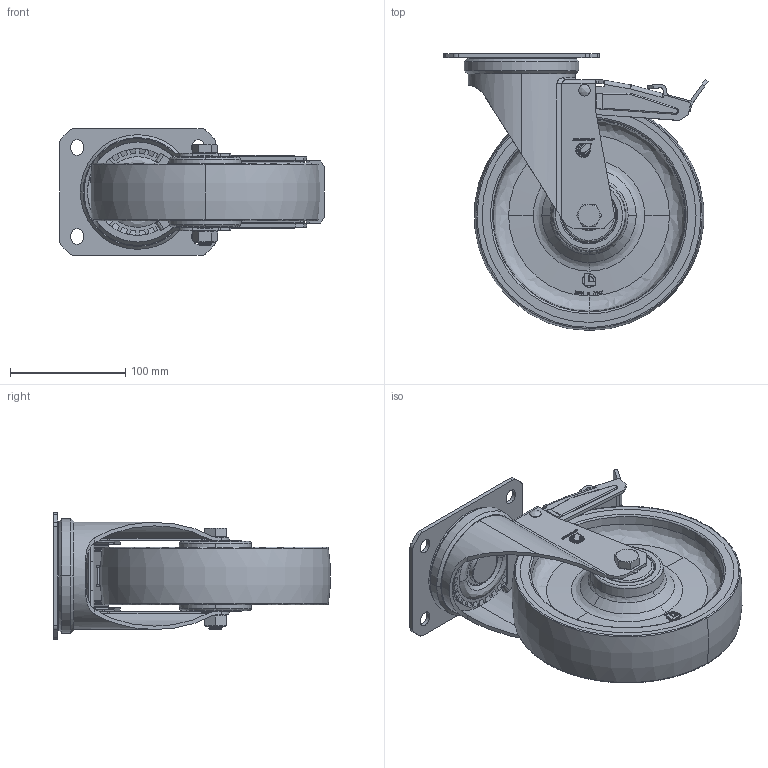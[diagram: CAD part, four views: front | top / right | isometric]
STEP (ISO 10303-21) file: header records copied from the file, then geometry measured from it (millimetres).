
FILE_DESCRIPTION (( 'STEP AP214' ), '1' );
FILE_NAME ('401695.STEP', '2020-02-03T07:06:24', ( '' ), ( '' ), 'SwSTEP 2.0', 'SolidWorks 2017', '' );
FILE_SCHEMA (( 'AUTOMOTIVE_DESIGN' ));
Length unit declared in the file: millimetre
Products named in the file (1): 401695
Bounding box: 229.37 x 240.18 x 110 mm (x, y, z)
Surface area: 295527.2 mm2 (no closed solid volume)
Topology: 0 solids, 35 shells, 772 faces, 3187 edges, 2384 vertices
Faces by surface type: plane 371, cylinder 232, bspline 90, cone 73, torus 6
Entity records: 51680 total; most frequent: CARTESIAN_POINT 18639, ORIENTED_EDGE 4887, DIRECTION 4585, EDGE_CURVE 3185, VERTEX_POINT 2384, VECTOR 1719, LINE 1719, AXIS2_PLACEMENT_3D 1433
